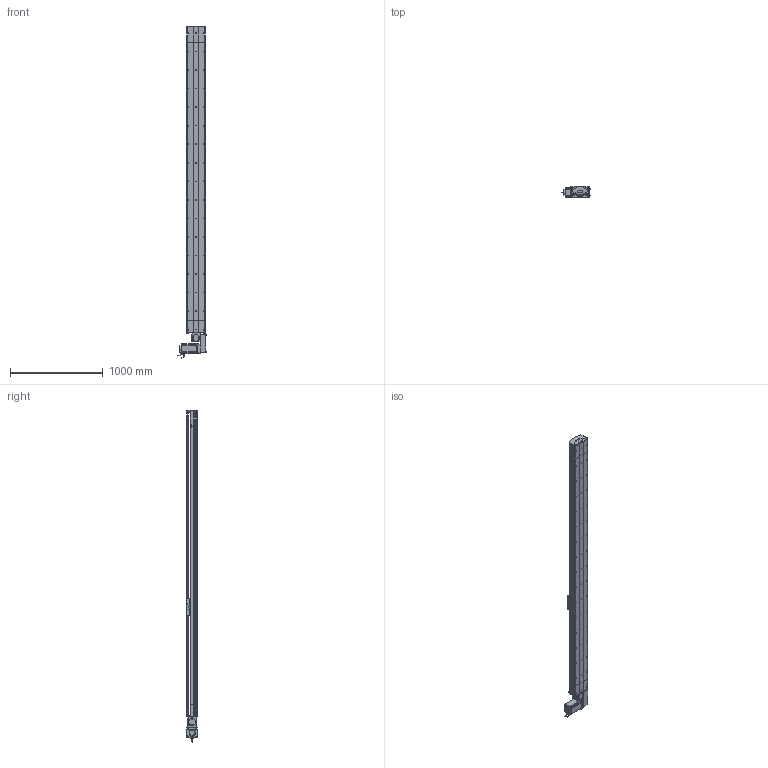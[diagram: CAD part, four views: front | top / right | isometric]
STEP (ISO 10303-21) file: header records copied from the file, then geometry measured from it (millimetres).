
FILE_DESCRIPTION (( 'STEP AP214' ), '1' );
FILE_NAME ('D20 TBH LH S3000.STEP', '2010-07-01T08:31:25', ( 'Conseil Régional Haute-Normandie' ), ( 'Conseil Régional Haute-Normandie' ), 'SwSTEP 2.0', 'SolidWorks 2010', '' );
FILE_SCHEMA (( 'AUTOMOTIVE_DESIGN' ));
Length unit declared in the file: millimetre
Products named in the file (40): couvercle tail D20_Default; tail D20_Default; rail tail D20; vis M5 L8 90°_Default; vis M5 L25_Default; vis M5 L12_Default; tete d''axe poulie D20B; corpl tail D20_Default; plaque de  bout tail D20_Default; poulie tail D20_Default; Couroie tail D20_Default; couvercle head D20_Default; D20 TBH LH S3000; Course B L3000_Default; guide D20B; Chariot D20B; corp D20 S3000_Default; chariot D20B_Default; plaque de  bout head D20B LH_Default; Conecteur2_Default; couvercle D20 S3000_Default; rail head D20; corpl head D20_Default; poulie head D20_Default; head LH_Default; rail + couroie  D20 S3000; cache arbre D20_Default; clavette; vis M8 L12_Default; Conecteur_Default; codeur 110BLDC170A-630x; corps 110BLDC170A-630x; Plaque racord D20LH_Default; avant 110BLDC170A-630x; Moteur motionking 110BLDC170A-640x; vis M5 L70_Default; Renvoi LH D20_Default; cache D20_Default; vis M5 L5_Default; couroie_Default
Assembly tree (71 placements, depth 4):
  D20 TBH LH S3000
    Course B L3000_Default
      couvercle D20 S3000_Default
      rail + couroie  D20 S3000
      corp D20 S3000_Default
    tail D20_Default
      couvercle tail D20_Default
      Couroie tail D20_Default
      vis M5 L12_Default  x4
      vis M5 L8 90°_Default  x2
      vis M5 L25_Default  x2
      poulie tail D20_Default
      plaque de  bout tail D20_Default
      tete d''axe poulie D20B
      rail tail D20
      corpl tail D20_Default
    head LH_Default
      vis M5 L5_Default  x4
      cache D20_Default  x2
      vis M5 L25_Default  x2
      couvercle head D20_Default
      Moteur motionking 110BLDC170A-640x
        codeur 110BLDC170A-630x
        Conecteur_Default
        avant 110BLDC170A-630x
        clavette
        Conecteur2_Default
        corps 110BLDC170A-630x
      vis M5 L70_Default  x4
      vis M5 L12_Default  x10
      vis M8 L12_Default  x4
      couroie_Default
      Plaque racord D20LH_Default
      poulie head D20_Default
      corpl head D20_Default
      rail head D20
      Renvoi LH D20_Default
      cache arbre D20_Default
      plaque de  bout head D20B LH_Default
    chariot D20B_Default
      Chariot D20B
      guide D20B  x2
      vis M5 L12_Default  x4
Bounding box: 304.2 x 115.7 x 3580 mm (x, y, z)
Volume: 27109330.7 mm3; surface area: 6684812.9 mm2
Topology: 95 solids, 95 shells, 2859 faces, 7347 edges, 4749 vertices
Faces by surface type: plane 1640, cylinder 895, bspline 136, cone 99, torus 89
Entity records: 92526 total; most frequent: CARTESIAN_POINT 30145, ORIENTED_EDGE 11350, DIRECTION 10654, EDGE_CURVE 5675, VERTEX_POINT 3735, VECTOR 3590, LINE 3590, AXIS2_PLACEMENT_3D 3532
